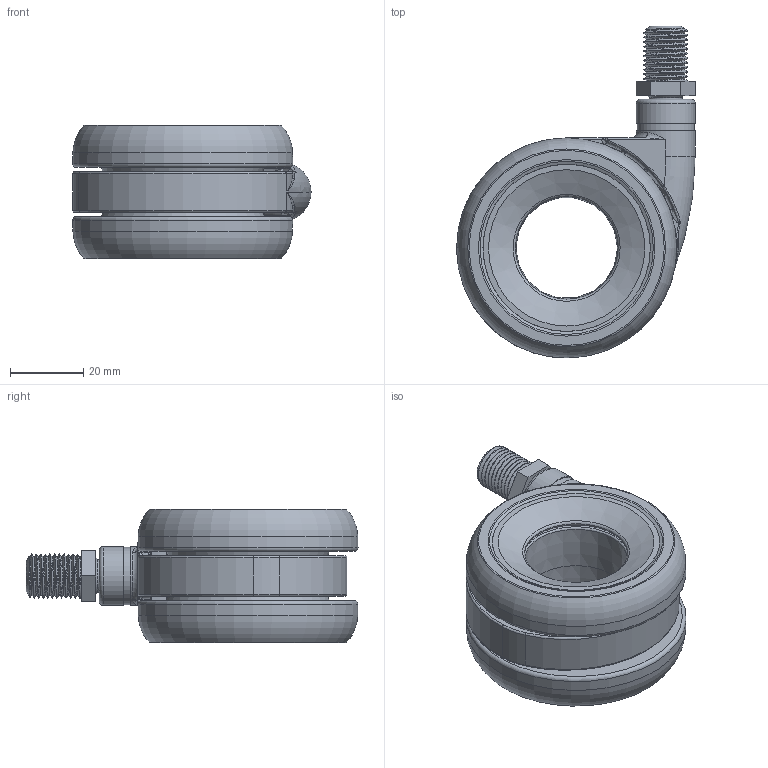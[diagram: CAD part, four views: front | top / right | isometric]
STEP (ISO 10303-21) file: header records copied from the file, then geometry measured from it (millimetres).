
FILE_DESCRIPTION (( 'STEP AP203' ), '1' );
FILE_NAME ('K09U16(M12).STEP', '2025-04-10T10:09:23', ( '' ), ( '' ), 'SwSTEP 2.0', 'SolidWorks 2025', '' );
FILE_SCHEMA (( 'CONFIG_CONTROL_DESIGN' ));
Length unit declared in the file: millimetre
Products named in the file (4): K09U16(M12); TPU車輪; 本体; M12縦軸
Assembly tree (4 placements, depth 2):
  K09U16(M12)
    本体
    M12縦軸
    TPU車輪  x2
Bounding box: 65.08 x 90.5 x 36.4 mm (x, y, z)
Volume: 73667.8 mm3; surface area: 53051.2 mm2
Topology: 8 solids, 9 shells, 456 faces, 1319 edges, 805 vertices
Faces by surface type: plane 216, cylinder 96, torus 61, cone 46, bspline 33, sphere 4
Full cylindrical faces by diameter (mm): 2.3 x45, 7.7 x1, 9 x2, 9.4 x2, 15.6 x1, 16 x2, 34 x2, 34.95 x1, 35 x1, 36 x4, 36.4 x4, 38.35 x3, 44.15 x3, 46 x2, 46.95 x1, 47 x1, 54.897 x4
Entity records: 15572 total; most frequent: CARTESIAN_POINT 7182, DIRECTION 1626, ORIENTED_EDGE 1528, EDGE_CURVE 764, AXIS2_PLACEMENT_3D 727, EDGE_LOOP 589, VERTEX_POINT 535, FACE_OUTER_BOUND 438
